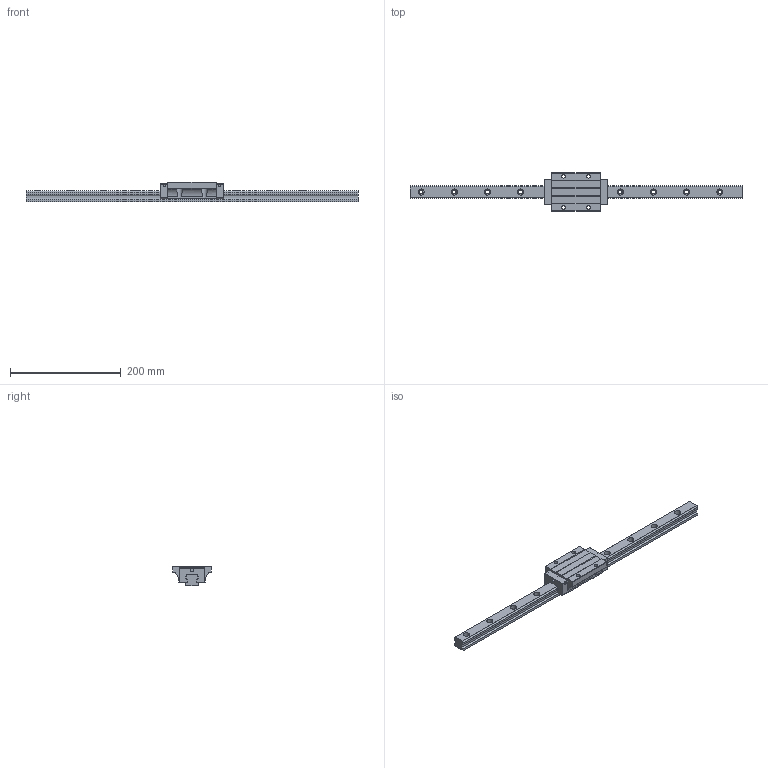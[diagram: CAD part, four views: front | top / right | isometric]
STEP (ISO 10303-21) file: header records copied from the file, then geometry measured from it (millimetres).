
FILE_DESCRIPTION (( 'STEP AP203' ), '1' );
FILE_NAME ('TRH25FE-SU.STEP', '2024-06-26T03:30:28', ( '' ), ( '' ), 'SwSTEP 2.0', 'SolidWorks 2022', '' );
FILE_SCHEMA (( 'CONFIG_CONTROL_DESIGN' ));
Length unit declared in the file: millimetre
Products named in the file (1): TRH25FE-SU
Bounding box: 600 x 70 x 36 mm (x, y, z)
Volume: 378524.1 mm3; surface area: 87798.2 mm2
Topology: 2 solids, 2 shells, 230 faces, 622 edges, 408 vertices
Faces by surface type: cylinder 130, plane 96, sphere 4
Entity records: 7853 total; most frequent: CARTESIAN_POINT 1797, DIRECTION 1276, ORIENTED_EDGE 1236, EDGE_CURVE 618, AXIS2_PLACEMENT_3D 459, VERTEX_POINT 408, VECTOR 358, LINE 358
